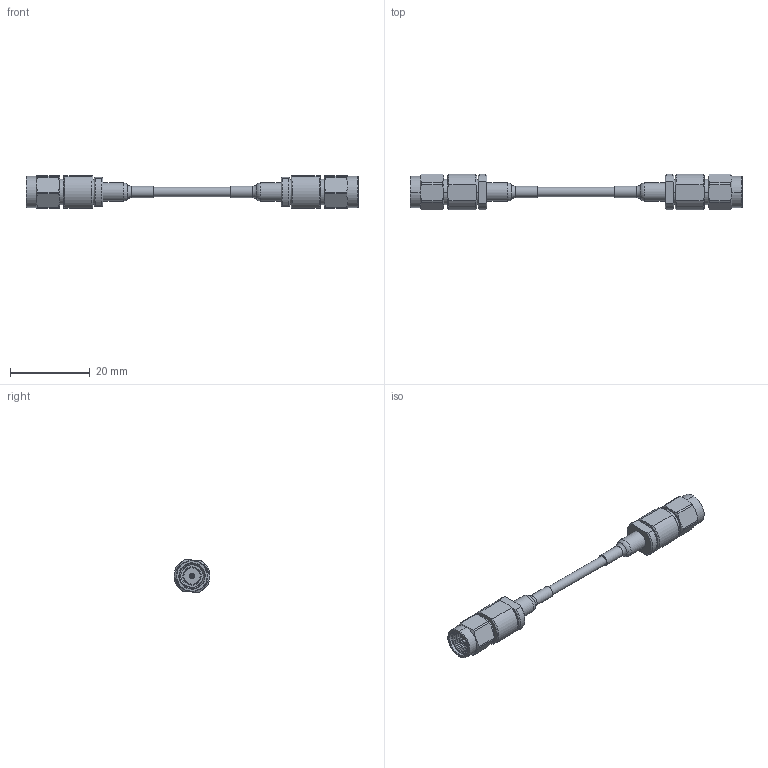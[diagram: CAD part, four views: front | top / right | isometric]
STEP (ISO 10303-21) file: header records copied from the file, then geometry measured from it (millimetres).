
FILE_DESCRIPTION (( 'STEP AP203' ), '1' );
FILE_NAME ('TM7S-H4S-XXX-XXX.STEP', '2020-03-09T01:39:45', ( '' ), ( '' ), 'SwSTEP 2.0', 'SolidWorks 2019', '' );
FILE_SCHEMA (( 'CONFIG_CONTROL_DESIGN' ));
Length unit declared in the file: millimetre
Products named in the file (16): Copy of Imported1^SMA(M); TM7S-H4S-XXX-XXX; Copy of Imported6^SMA(M); Copy of Imported11^SMA(M); Copy of Imported5^SMA(M); SMA(M)_默认è_; Copy of Imported4^SMA(M); Copy of Imported2^SMA(M); M23053-4-102-0_3K69771311P; Copy of Imported9^SMA(M); Copy of Imported3^SMA(M); Copy of Imported8^SMA(M); 1V6H2492_UFC092D_CABLE_2.92mm; Copy of Imported10^SMA(M); Copy of Imported7^SMA(M)
Assembly tree (27 placements, depth 3):
  TM7S-H4S-XXX-XXX
    1V6H2492_UFC092D_CABLE_2.92mm
    M23053-4-102-0_3K69771311P  x2
    SMA(M)_默认è_
      Copy of Imported11^SMA(M)
      Copy of Imported10^SMA(M)
      Copy of Imported9^SMA(M)
      Copy of Imported8^SMA(M)
      Copy of Imported7^SMA(M)
      Copy of Imported6^SMA(M)
      Copy of Imported5^SMA(M)
      Copy of Imported4^SMA(M)
      Copy of Imported3^SMA(M)
      Copy of Imported2^SMA(M)
      Copy of Imported1^SMA(M)
    SMA(M)_默认è_
      Copy of Imported11^SMA(M)
      Copy of Imported10^SMA(M)
      Copy of Imported9^SMA(M)
      Copy of Imported8^SMA(M)
      Copy of Imported7^SMA(M)
      Copy of Imported6^SMA(M)
      Copy of Imported5^SMA(M)
      Copy of Imported4^SMA(M)
      Copy of Imported3^SMA(M)
      Copy of Imported2^SMA(M)
      Copy of Imported1^SMA(M)
Bounding box: 83.09 x 9 x 8.19 mm (x, y, z)
Volume: 2064.5 mm3; surface area: 7554.5 mm2
Topology: 29 solids, 29 shells, 769 faces, 1799 edges, 1148 vertices
Faces by surface type: cylinder 357, plane 186, cone 170, bspline 48, torus 8
Full cylindrical faces by diameter (mm): 0.511 x2, 1.511 x2, 1.727 x2, 2.007 x2, 2.337 x3, 2.845 x2, 4.064 x2, 4.572 x2
Entity records: 17676 total; most frequent: CARTESIAN_POINT 6818, DIRECTION 1891, ORIENTED_EDGE 1788, EDGE_CURVE 894, AXIS2_PLACEMENT_3D 798, VERTEX_POINT 583, EDGE_LOOP 479, FACE_OUTER_BOUND 411
